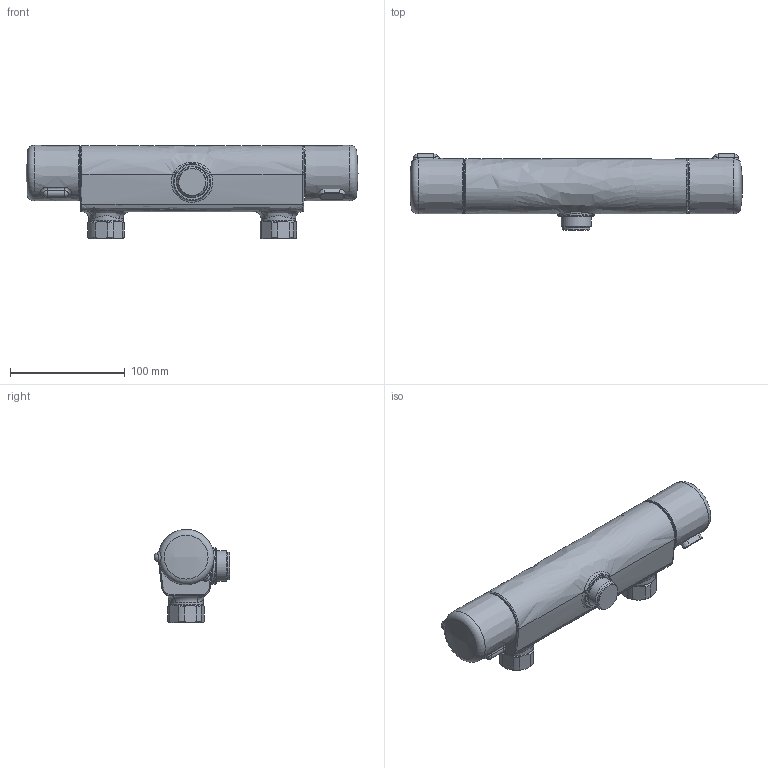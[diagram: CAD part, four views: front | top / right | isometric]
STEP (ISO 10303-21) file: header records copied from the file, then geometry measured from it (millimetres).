
FILE_DESCRIPTION (( 'STEP AP203' ), '1' );
FILE_NAME ('7461(2016).STEP', '2017-03-09T06:00:45', ( '' ), ( '' ), 'SwSTEP 2.0', 'SolidWorks 2016', '' );
FILE_SCHEMA (( 'CONFIG_CONTROL_DESIGN' ));
Length unit declared in the file: millimetre
Products named in the file (1): 7461(2016)
Bounding box: 289.1 x 66.17 x 81.15 mm (x, y, z)
Volume: 665460.2 mm3; surface area: 65892.8 mm2
Topology: 1 solids, 1 shells, 177 faces, 408 edges, 249 vertices
Faces by surface type: bspline 50, plane 39, cone 35, cylinder 33, torus 12, sphere 8
Full cylindrical faces by diameter (mm): 24 x3, 26 x2, 26.441 x1, 27.5 x1, 30 x2, 40.531 x2
Entity records: 10600 total; most frequent: CARTESIAN_POINT 7194, ORIENTED_EDGE 720, DIRECTION 580, EDGE_CURVE 360, AXIS2_PLACEMENT_3D 265, VERTEX_POINT 231, EDGE_LOOP 223, FACE_OUTER_BOUND 196
